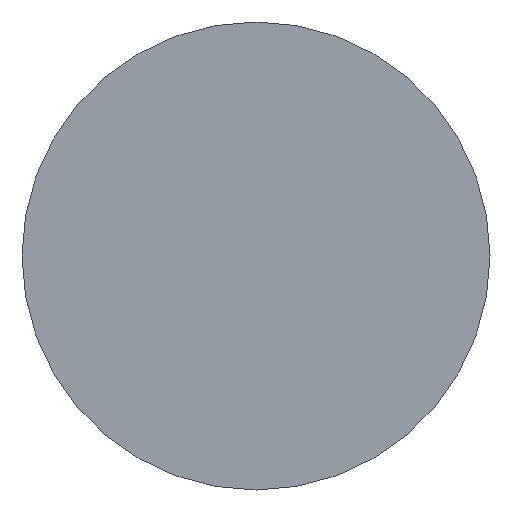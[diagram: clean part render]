
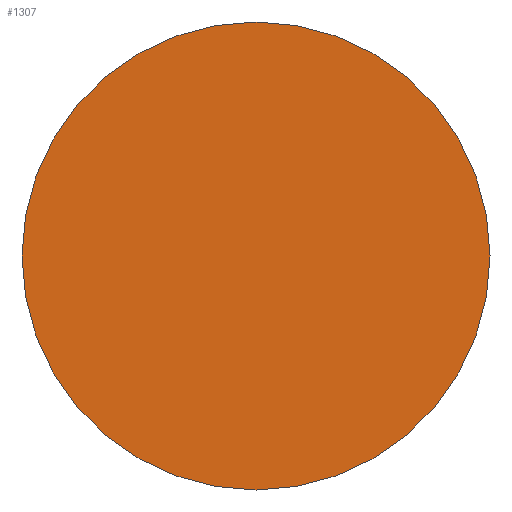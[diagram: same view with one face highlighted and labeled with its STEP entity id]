
A CAD part, front view. The second image highlights one B-rep face of the part: STEP entity #1307.
In plain terms, the highlighted planar face has unit normal (0, -1, 0).
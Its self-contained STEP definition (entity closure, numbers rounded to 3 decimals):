
#57 = CIRCLE ( 'NONE', #1092, 34.75 ) ;
#124 = CARTESIAN_POINT ( 'NONE',  ( 34.75, 0., 0. ) ) ;
#159 = VERTEX_POINT ( 'NONE', #124 ) ;
#162 = EDGE_LOOP ( 'NONE', ( #1024, #515 ) ) ;
#289 = DIRECTION ( 'NONE',  ( 0., 1., 0. ) ) ;
#364 = DIRECTION ( 'NONE',  ( -1., 0., 0. ) ) ;
#393 = DIRECTION ( 'NONE',  ( 1., 0., 0. ) ) ;
#403 = DIRECTION ( 'NONE',  ( 0., -1., 0. ) ) ;
#410 = DIRECTION ( 'NONE',  ( -1., 0., 0. ) ) ;
#411 = CIRCLE ( 'NONE', #709, 34.75 ) ;
#427 = DIRECTION ( 'NONE',  ( 0., 1., 0. ) ) ;
#515 = ORIENTED_EDGE ( 'NONE', *, *, #936, .F. ) ;
#581 = FACE_OUTER_BOUND ( 'NONE', #162, .T. ) ;
#682 = CARTESIAN_POINT ( 'NONE',  ( -34.75, 0., 0. ) ) ;
#709 = AXIS2_PLACEMENT_3D ( 'NONE', #1045, #427, #364 ) ;
#936 = EDGE_CURVE ( 'NONE', #159, #1109, #411, .T. ) ;
#987 = PLANE ( 'NONE',  #1025 ) ;
#999 = CARTESIAN_POINT ( 'NONE',  ( 0., 0., 0. ) ) ;
#1024 = ORIENTED_EDGE ( 'NONE', *, *, #1362, .F. ) ;
#1025 = AXIS2_PLACEMENT_3D ( 'NONE', #1089, #403, #393 ) ;
#1045 = CARTESIAN_POINT ( 'NONE',  ( 0., 0., 0. ) ) ;
#1089 = CARTESIAN_POINT ( 'NONE',  ( 0., 0., 0. ) ) ;
#1092 = AXIS2_PLACEMENT_3D ( 'NONE', #999, #289, #410 ) ;
#1109 = VERTEX_POINT ( 'NONE', #682 ) ;
#1307 = ADVANCED_FACE ( 'NONE', ( #581 ), #987, .T. ) ;
#1362 = EDGE_CURVE ( 'NONE', #1109, #159, #57, .T. ) ;
